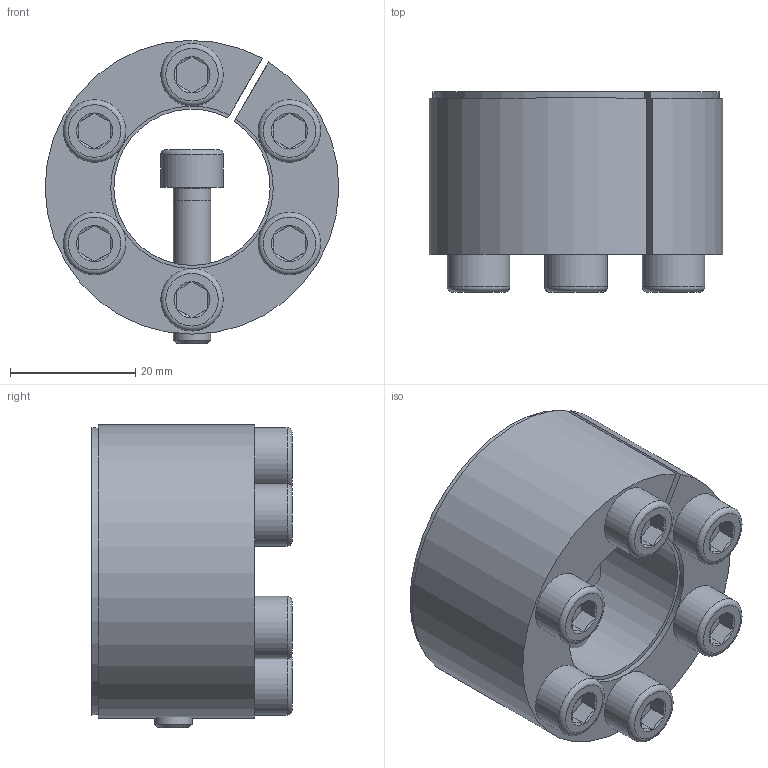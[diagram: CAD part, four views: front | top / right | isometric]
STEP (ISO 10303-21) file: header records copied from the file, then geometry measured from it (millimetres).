
FILE_DESCRIPTION( ( 'Unknown' ), '1' );
FILE_NAME( 'C:/Dokumente und Einstellungen/Sven/Desktop/homepage/cad - homepage/KBS61/KBS 61 - 25 x 47.stp', 'Unknown', ( 'Unknown' ), ( 'Unknown' ), 'XStep 1.0', 'Unknown', ' ' );
FILE_SCHEMA( ( 'automotive_design' ) );
Length unit declared in the file: millimetre
Products named in the file (3): Assem1; KBS 61 - 25 x 47; ISO EN DIN 4762 M6x25
Bounding box: 47 x 32 x 48.49 mm (x, y, z)
Volume: 62691.6 mm3; surface area: 29025.1 mm2
Topology: 9 solids, 9 shells, 207 faces, 397 edges, 236 vertices
Faces by surface type: plane 96, cone 53, cylinder 44, torus 14
Full cylindrical faces by diameter (mm): 5 x7, 6 x26, 10 x7
Entity records: 1282 total; most frequent: CARTESIAN_POINT 229, DIRECTION 196, ORIENTED_EDGE 142, AXIS2_PLACEMENT_3D 86, EDGE_CURVE 71, EDGE_LOOP 70, FACE_OUTER_BOUND 53, VERTEX_POINT 51
